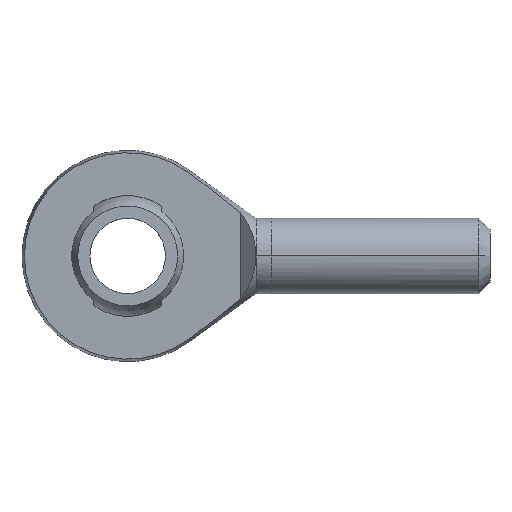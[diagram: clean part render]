
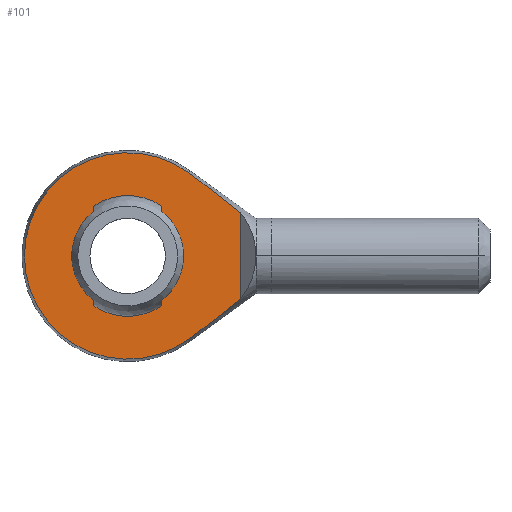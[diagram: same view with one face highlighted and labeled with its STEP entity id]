
A CAD part, top view. The second image highlights one B-rep face of the part: STEP entity #101.
In plain terms, the highlighted planar face has unit normal (0, 0, 1).
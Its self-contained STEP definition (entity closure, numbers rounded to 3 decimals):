
#18 = EDGE_CURVE ( 'NONE', #37, #222, #423, .T. ) ;
#37 = VERTEX_POINT ( 'NONE', #401 ) ;
#39 = VERTEX_POINT ( 'NONE', #395 ) ;
#56 = EDGE_LOOP ( 'NONE', ( #102, #103, #105, #152, #147, #76, #144, #141 ) ) ;
#76 = ORIENTED_EDGE ( 'NONE', *, *, #224, .T. ) ;
#101 = ADVANCED_FACE ( 'NONE', ( #512, #511 ), #569, .F. ) ;
#102 = ORIENTED_EDGE ( 'NONE', *, *, #1359, .F. ) ;
#103 = ORIENTED_EDGE ( 'NONE', *, *, #104, .T. ) ;
#104 = EDGE_CURVE ( 'NONE', #1343, #1360, #563, .T. ) ;
#105 = ORIENTED_EDGE ( 'NONE', *, *, #1352, .F. ) ;
#130 = ORIENTED_EDGE ( 'NONE', *, *, #270, .T. ) ;
#138 = ORIENTED_EDGE ( 'NONE', *, *, #284, .T. ) ;
#139 = EDGE_CURVE ( 'NONE', #195, #201, #631, .T. ) ;
#140 = ORIENTED_EDGE ( 'NONE', *, *, #139, .T. ) ;
#141 = ORIENTED_EDGE ( 'NONE', *, *, #142, .F. ) ;
#142 = EDGE_CURVE ( 'NONE', #39, #37, #627, .T. ) ;
#143 = EDGE_LOOP ( 'NONE', ( #151, #140, #138, #130 ) ) ;
#144 = ORIENTED_EDGE ( 'NONE', *, *, #18, .F. ) ;
#145 = EDGE_CURVE ( 'NONE', #148, #1355, #622, .T. ) ;
#146 = EDGE_CURVE ( 'NONE', #216, #148, #617, .T. ) ;
#147 = ORIENTED_EDGE ( 'NONE', *, *, #146, .F. ) ;
#148 = VERTEX_POINT ( 'NONE', #613 ) ;
#151 = ORIENTED_EDGE ( 'NONE', *, *, #193, .T. ) ;
#152 = ORIENTED_EDGE ( 'NONE', *, *, #145, .F. ) ;
#193 = EDGE_CURVE ( 'NONE', #268, #195, #705, .T. ) ;
#195 = VERTEX_POINT ( 'NONE', #698 ) ;
#201 = VERTEX_POINT ( 'NONE', #738 ) ;
#216 = VERTEX_POINT ( 'NONE', #770 ) ;
#222 = VERTEX_POINT ( 'NONE', #758 ) ;
#224 = EDGE_CURVE ( 'NONE', #216, #222, #756, .T. ) ;
#268 = VERTEX_POINT ( 'NONE', #812 ) ;
#270 = EDGE_CURVE ( 'NONE', #271, #268, #811, .T. ) ;
#271 = VERTEX_POINT ( 'NONE', #867 ) ;
#284 = EDGE_CURVE ( 'NONE', #201, #271, #844, .T. ) ;
#395 = CARTESIAN_POINT ( 'NONE',  ( 4.5, 6.614, 3. ) ) ;
#401 = CARTESIAN_POINT ( 'NONE',  ( -4.5, 6.614, 3. ) ) ;
#420 = DIRECTION ( 'NONE',  ( 0., -1., 0. ) ) ;
#421 = VECTOR ( 'NONE', #420, 1000. ) ;
#422 = CARTESIAN_POINT ( 'NONE',  ( -4.5, 6.614, 3. ) ) ;
#423 = LINE ( 'NONE', #422, #421 ) ;
#511 = FACE_OUTER_BOUND ( 'NONE', #143, .T. ) ;
#512 = FACE_BOUND ( 'NONE', #56, .T. ) ;
#559 = DIRECTION ( 'NONE',  ( -1., 0., 0. ) ) ;
#560 = DIRECTION ( 'NONE',  ( 0., 0., -1. ) ) ;
#561 = CARTESIAN_POINT ( 'NONE',  ( 0., 0., 3. ) ) ;
#562 = AXIS2_PLACEMENT_3D ( 'NONE', #561, #560, #559 ) ;
#563 = CIRCLE ( 'NONE', #562, 7.416 ) ;
#565 = DIRECTION ( 'NONE',  ( -1., 0., 0. ) ) ;
#566 = DIRECTION ( 'NONE',  ( 0., 0., -1. ) ) ;
#567 = CARTESIAN_POINT ( 'NONE',  ( -14., -14., 3. ) ) ;
#568 = AXIS2_PLACEMENT_3D ( 'NONE', #567, #566, #565 ) ;
#569 = PLANE ( 'NONE',  #568 ) ;
#613 = CARTESIAN_POINT ( 'NONE',  ( -4.5, -6.614, 3. ) ) ;
#614 = DIRECTION ( 'NONE',  ( 0., -1., 0. ) ) ;
#615 = VECTOR ( 'NONE', #614, 1000. ) ;
#616 = CARTESIAN_POINT ( 'NONE',  ( -4.5, 6.614, 3. ) ) ;
#617 = LINE ( 'NONE', #616, #615 ) ;
#618 = DIRECTION ( 'NONE',  ( 1., 0., 0. ) ) ;
#619 = DIRECTION ( 'NONE',  ( 0., 0., 1. ) ) ;
#620 = CARTESIAN_POINT ( 'NONE',  ( 0., 0., 3. ) ) ;
#621 = AXIS2_PLACEMENT_3D ( 'NONE', #620, #619, #618 ) ;
#622 = CIRCLE ( 'NONE', #621, 8. ) ;
#623 = DIRECTION ( 'NONE',  ( 1., 0., 0. ) ) ;
#624 = DIRECTION ( 'NONE',  ( 0., 0., 1. ) ) ;
#625 = CARTESIAN_POINT ( 'NONE',  ( 0., 0., 3. ) ) ;
#626 = AXIS2_PLACEMENT_3D ( 'NONE', #625, #624, #623 ) ;
#627 = CIRCLE ( 'NONE', #626, 8. ) ;
#628 = DIRECTION ( 'NONE',  ( 0., 1., 0. ) ) ;
#629 = VECTOR ( 'NONE', #628, 1000. ) ;
#630 = CARTESIAN_POINT ( 'NONE',  ( 15., -14., 3. ) ) ;
#631 = LINE ( 'NONE', #630, #629 ) ;
#698 = CARTESIAN_POINT ( 'NONE',  ( 15., -5.697, 3. ) ) ;
#699 = CARTESIAN_POINT ( 'NONE',  ( 15., -5.697, 3. ) ) ;
#700 = CARTESIAN_POINT ( 'NONE',  ( 13.889, -6.603, 3. ) ) ;
#701 = CARTESIAN_POINT ( 'NONE',  ( 12.758, -7.483, 3. ) ) ;
#702 = CARTESIAN_POINT ( 'NONE',  ( 10.485, -9.227, 3. ) ) ;
#703 = CARTESIAN_POINT ( 'NONE',  ( 9.341, -10.089, 3. ) ) ;
#704 = CARTESIAN_POINT ( 'NONE',  ( 8.194, -10.948, 3. ) ) ;
#705 = B_SPLINE_CURVE_WITH_KNOTS ( 'NONE', 3,
 ( #704, #703, #702, #701, #700, #699 ),
 .UNSPECIFIED., .F., .F.,
 ( 4, 2, 4 ),
 ( 0.04, 0.044, 0.048 ),
 .UNSPECIFIED. ) ;
#738 = CARTESIAN_POINT ( 'NONE',  ( 15., 5.697, 3. ) ) ;
#752 = DIRECTION ( 'NONE',  ( -1., 0., 0. ) ) ;
#753 = DIRECTION ( 'NONE',  ( 0., 0., -1. ) ) ;
#754 = CARTESIAN_POINT ( 'NONE',  ( 0., 0., 3. ) ) ;
#755 = AXIS2_PLACEMENT_3D ( 'NONE', #754, #753, #752 ) ;
#756 = CIRCLE ( 'NONE', #755, 7.416 ) ;
#758 = CARTESIAN_POINT ( 'NONE',  ( -4.5, 5.895, 3. ) ) ;
#770 = CARTESIAN_POINT ( 'NONE',  ( -4.5, -5.895, 3. ) ) ;
#811 = CIRCLE ( 'NONE', #1364, 13.675 ) ;
#812 = CARTESIAN_POINT ( 'NONE',  ( 8.194, -10.948, 3. ) ) ;
#844 = B_SPLINE_CURVE_WITH_KNOTS ( 'NONE', 3,
 ( #901, #900, #899, #898, #897, #896 ),
 .UNSPECIFIED., .F., .F.,
 ( 4, 2, 4 ),
 ( 0.063, 0.068, 0.072 ),
 .UNSPECIFIED. ) ;
#867 = CARTESIAN_POINT ( 'NONE',  ( 8.194, 10.948, 3. ) ) ;
#896 = CARTESIAN_POINT ( 'NONE',  ( 8.194, 10.948, 3. ) ) ;
#897 = CARTESIAN_POINT ( 'NONE',  ( 9.341, 10.09, 3. ) ) ;
#898 = CARTESIAN_POINT ( 'NONE',  ( 10.485, 9.227, 3. ) ) ;
#899 = CARTESIAN_POINT ( 'NONE',  ( 12.759, 7.483, 3. ) ) ;
#900 = CARTESIAN_POINT ( 'NONE',  ( 13.89, 6.602, 3. ) ) ;
#901 = CARTESIAN_POINT ( 'NONE',  ( 15., 5.697, 3. ) ) ;
#966 = CARTESIAN_POINT ( 'NONE',  ( 4.5, 5.895, 3. ) ) ;
#998 = CARTESIAN_POINT ( 'NONE',  ( 4.5, 6.614, 3. ) ) ;
#999 = LINE ( 'NONE', #998, #1046 ) ;
#1009 = CARTESIAN_POINT ( 'NONE',  ( 4.5, -6.614, 3. ) ) ;
#1010 = DIRECTION ( 'NONE',  ( 0., 1., 0. ) ) ;
#1011 = VECTOR ( 'NONE', #1010, 1000. ) ;
#1012 = CARTESIAN_POINT ( 'NONE',  ( 4.5, 6.614, 3. ) ) ;
#1016 = LINE ( 'NONE', #1012, #1011 ) ;
#1044 = CARTESIAN_POINT ( 'NONE',  ( 4.5, -5.895, 3. ) ) ;
#1045 = DIRECTION ( 'NONE',  ( 0., 1., 0. ) ) ;
#1046 = VECTOR ( 'NONE', #1045, 1000. ) ;
#1343 = VERTEX_POINT ( 'NONE', #966 ) ;
#1352 = EDGE_CURVE ( 'NONE', #1355, #1360, #1016, .T. ) ;
#1355 = VERTEX_POINT ( 'NONE', #1009 ) ;
#1359 = EDGE_CURVE ( 'NONE', #1343, #39, #999, .T. ) ;
#1360 = VERTEX_POINT ( 'NONE', #1044 ) ;
#1363 = CARTESIAN_POINT ( 'NONE',  ( 0., 0., 3. ) ) ;
#1364 = AXIS2_PLACEMENT_3D ( 'NONE', #1363, #1366, #1367 ) ;
#1366 = DIRECTION ( 'NONE',  ( 0., 0., 1. ) ) ;
#1367 = DIRECTION ( 'NONE',  ( -1., 0., 0. ) ) ;
